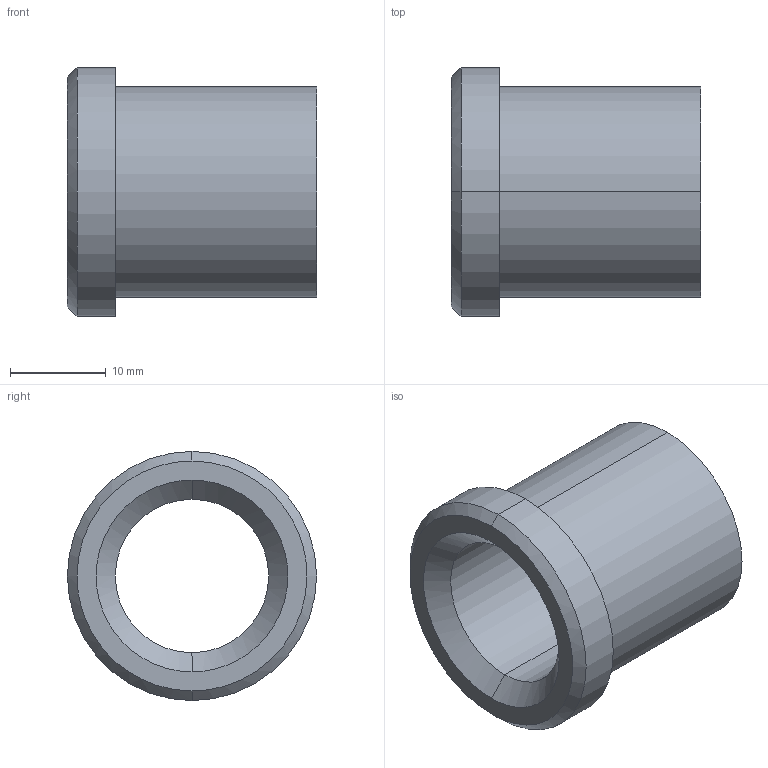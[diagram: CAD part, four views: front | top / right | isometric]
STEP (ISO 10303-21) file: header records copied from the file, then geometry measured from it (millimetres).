
FILE_DESCRIPTION(('CATIA V5 STEP Exchange'),'2;1');
FILE_NAME('C:\Users\Utente\Desktop\IO LAVORO\3D X SITO CF\X SITO\PLASTICA\353\353-16X26.stp','2021-05-04T18:19:26+00:00',('none'),('none'),'CATIA Version 5 Release 20 GA (IN-10)','CATIA V5 STEP AP203','none');
FILE_SCHEMA(('CONFIG_CONTROL_DESIGN'));
Length unit declared in the file: millimetre
Products named in the file (1): 353-16X26
Bounding box: 26 x 26 x 26 mm (x, y, z)
Volume: 5250 mm3; surface area: 3702.5 mm2
Topology: 1 solids, 1 shells, 15 faces, 48 edges, 36 vertices
Faces by surface type: cylinder 6, cone 4, plane 3, torus 2
Entity records: 680 total; most frequent: CARTESIAN_POINT 212, ORIENTED_EDGE 96, DIRECTION 70, EDGE_CURVE 48, AXIS2_PLACEMENT_3D 46, VERTEX_POINT 36, CIRCLE 30, EDGE_LOOP 18
